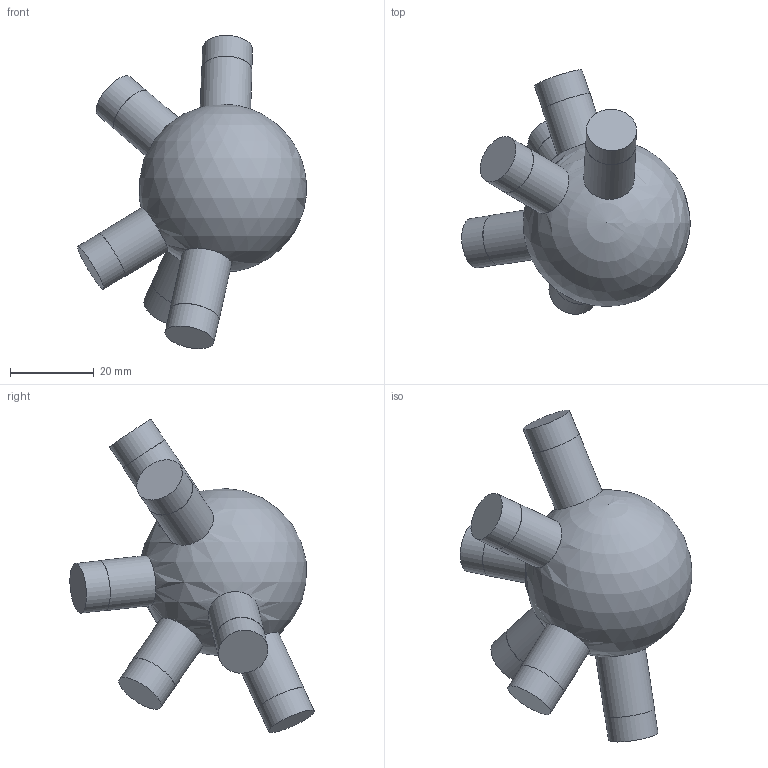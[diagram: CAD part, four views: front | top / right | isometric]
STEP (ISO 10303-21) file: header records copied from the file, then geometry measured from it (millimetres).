
FILE_DESCRIPTION(('Open CASCADE Model'),'2;1');
FILE_NAME('Open CASCADE Shape Model','2026-10-21T12:47:57',('Author'),( 'Open CASCADE'),'Open CASCADE STEP processor 7.9','Open CASCADE 7.9' ,'Unknown');
FILE_SCHEMA(('AUTOMOTIVE_DESIGN { 1 0 10303 214 1 1 1 1 }'));
Length unit declared in the file: millimetre
Products named in the file (1): Open CASCADE STEP translator 7.9 69
Bounding box: 54.53 x 58.18 x 74.65 mm (x, y, z)
Volume: 45965.4 mm3; surface area: 9278.5 mm2
Topology: 1 solids, 1 shells, 25 faces, 39 edges, 26 vertices
Faces by surface type: cylinder 12, plane 12, sphere 1
Full cylindrical faces by diameter (mm): 11.9 x6, 12 x6
Entity records: 1464 total; most frequent: CARTESIAN_POINT 599, DIRECTION 178, ORIENTED_EDGE 72, PCURVE 72, DEFINITIONAL_REPRESENTATION 72, LINE 60, VECTOR 60, AXIS2_PLACEMENT_3D 50
